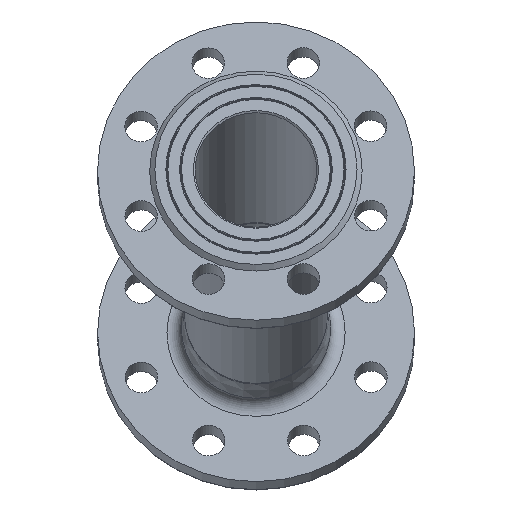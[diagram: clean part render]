
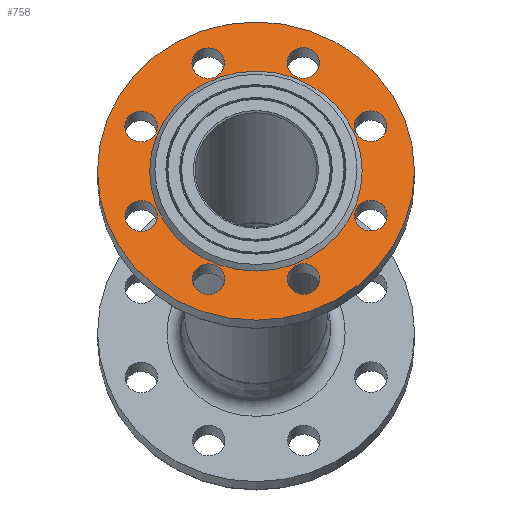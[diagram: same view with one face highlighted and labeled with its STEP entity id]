
A CAD part, top view. The second image highlights one B-rep face of the part: STEP entity #758.
In plain terms, the highlighted planar face has unit normal (0, 0.337, 0.941) as drawn and (0, 0, 1) by its records, which use the part's own axes.
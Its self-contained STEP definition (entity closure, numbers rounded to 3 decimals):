
#758 = ADVANCED_FACE( '', ( #1705, #1706, #1707, #1708, #1709, #1710, #1711, #1712, #1713, #1714 ), #1715, .T. );
#1705 = FACE_BOUND( '', #5603, .T. );
#1706 = FACE_BOUND( '', #5604, .T. );
#1707 = FACE_BOUND( '', #5605, .T. );
#1708 = FACE_BOUND( '', #5606, .T. );
#1709 = FACE_BOUND( '', #5607, .T. );
#1710 = FACE_BOUND( '', #5608, .T. );
#1711 = FACE_BOUND( '', #5609, .T. );
#1712 = FACE_BOUND( '', #5610, .T. );
#1713 = FACE_BOUND( '', #5611, .T. );
#1714 = FACE_OUTER_BOUND( '', #5612, .T. );
#1715 = PLANE( '', #5613 );
#5603 = EDGE_LOOP( '', ( #9774 ) );
#5604 = EDGE_LOOP( '', ( #9775 ) );
#5605 = EDGE_LOOP( '', ( #9776 ) );
#5606 = EDGE_LOOP( '', ( #9777 ) );
#5607 = EDGE_LOOP( '', ( #9778 ) );
#5608 = EDGE_LOOP( '', ( #9779 ) );
#5609 = EDGE_LOOP( '', ( #9780 ) );
#5610 = EDGE_LOOP( '', ( #9781 ) );
#5611 = EDGE_LOOP( '', ( #9782 ) );
#5612 = EDGE_LOOP( '', ( #9783 ) );
#5613 = AXIS2_PLACEMENT_3D( '', #9784, #9785, #9786 );
#9774 = ORIENTED_EDGE( '', *, *, #11908, .F. );
#9775 = ORIENTED_EDGE( '', *, *, #11909, .F. );
#9776 = ORIENTED_EDGE( '', *, *, #11910, .F. );
#9777 = ORIENTED_EDGE( '', *, *, #11493, .F. );
#9778 = ORIENTED_EDGE( '', *, *, #11911, .T. );
#9779 = ORIENTED_EDGE( '', *, *, #11815, .T. );
#9780 = ORIENTED_EDGE( '', *, *, #11423, .T. );
#9781 = ORIENTED_EDGE( '', *, *, #11786, .T. );
#9782 = ORIENTED_EDGE( '', *, *, #11912, .T. );
#9783 = ORIENTED_EDGE( '', *, *, #11310, .F. );
#9784 = CARTESIAN_POINT( '', ( 0., -92.5, 297. ) );
#9785 = DIRECTION( '', ( 0., 0., 1. ) );
#9786 = DIRECTION( '', ( 1., 0., 0. ) );
#11310 = EDGE_CURVE( '', #12415, #12415, #12416, .T. );
#11423 = EDGE_CURVE( '', #12609, #12609, #12610, .T. );
#11493 = EDGE_CURVE( '', #12726, #12726, #12727, .T. );
#11786 = EDGE_CURVE( '', #13177, #13177, #13178, .T. );
#11815 = EDGE_CURVE( '', #13222, #13222, #13223, .T. );
#11908 = EDGE_CURVE( '', #13353, #13353, #13354, .T. );
#11909 = EDGE_CURVE( '', #13355, #13355, #13356, .T. );
#11910 = EDGE_CURVE( '', #13357, #13357, #13358, .T. );
#11911 = EDGE_CURVE( '', #13359, #13359, #13360, .T. );
#11912 = EDGE_CURVE( '', #13361, #13361, #13362, .T. );
#12415 = VERTEX_POINT( '', #14053 );
#12416 = CIRCLE( '', #14054, 92.5 );
#12609 = VERTEX_POINT( '', #14510 );
#12610 = CIRCLE( '', #14511, 9.5 );
#12726 = VERTEX_POINT( '', #14761 );
#12727 = CIRCLE( '', #14762, 9.5 );
#13177 = VERTEX_POINT( '', #15900 );
#13178 = CIRCLE( '', #15901, 9.5 );
#13222 = VERTEX_POINT( '', #15970 );
#13223 = CIRCLE( '', #15971, 9.5 );
#13353 = VERTEX_POINT( '', #16375 );
#13354 = CIRCLE( '', #16376, 9.5 );
#13355 = VERTEX_POINT( '', #16377 );
#13356 = CIRCLE( '', #16378, 9.5 );
#13357 = VERTEX_POINT( '', #16379 );
#13358 = CIRCLE( '', #16380, 9.5 );
#13359 = VERTEX_POINT( '', #16381 );
#13360 = CIRCLE( '', #16382, 9.5 );
#13361 = VERTEX_POINT( '', #16383 );
#13362 = CIRCLE( '', #16384, 62. );
#14053 = CARTESIAN_POINT( '', ( -92.5, 0., 297. ) );
#14054 = AXIS2_PLACEMENT_3D( '', #17417, #17418, #17419 );
#14510 = CARTESIAN_POINT( '', ( 66.981, 18.245, 297. ) );
#14511 = AXIS2_PLACEMENT_3D( '', #17570, #17571, #17572 );
#14761 = CARTESIAN_POINT( '', ( 76.481, -27.745, 297. ) );
#14762 = AXIS2_PLACEMENT_3D( '', #17674, #17675, #17676 );
#15900 = CARTESIAN_POINT( '', ( -27.745, 57.481, 297. ) );
#15901 = AXIS2_PLACEMENT_3D( '', #18078, #18079, #18080 );
#15970 = CARTESIAN_POINT( '', ( 27.745, -76.481, 297. ) );
#15971 = AXIS2_PLACEMENT_3D( '', #18114, #18115, #18116 );
#16375 = CARTESIAN_POINT( '', ( -57.481, 27.745, 297. ) );
#16376 = AXIS2_PLACEMENT_3D( '', #18229, #18230, #18231 );
#16377 = CARTESIAN_POINT( '', ( 37.245, 66.981, 297. ) );
#16378 = AXIS2_PLACEMENT_3D( '', #18232, #18233, #18234 );
#16379 = CARTESIAN_POINT( '', ( -18.245, -66.981, 297. ) );
#16380 = AXIS2_PLACEMENT_3D( '', #18235, #18236, #18237 );
#16381 = CARTESIAN_POINT( '', ( -66.981, -37.245, 297. ) );
#16382 = AXIS2_PLACEMENT_3D( '', #18238, #18239, #18240 );
#16383 = CARTESIAN_POINT( '', ( -62., 0., 297. ) );
#16384 = AXIS2_PLACEMENT_3D( '', #18241, #18242, #18243 );
#17417 = CARTESIAN_POINT( '', ( 0., 0., 297. ) );
#17418 = DIRECTION( '', ( 0., 0., -1. ) );
#17419 = DIRECTION( '', ( -1., 0., 0. ) );
#17570 = CARTESIAN_POINT( '', ( 66.981, 27.745, 297. ) );
#17571 = DIRECTION( '', ( 0., 0., -1. ) );
#17572 = DIRECTION( '', ( 0., -1., 0. ) );
#17674 = CARTESIAN_POINT( '', ( 66.981, -27.745, 297. ) );
#17675 = DIRECTION( '', ( 0., 0., 1. ) );
#17676 = DIRECTION( '', ( 1., 0., 0. ) );
#18078 = CARTESIAN_POINT( '', ( -27.745, 66.981, 297. ) );
#18079 = DIRECTION( '', ( 0., 0., -1. ) );
#18080 = DIRECTION( '', ( 0., -1., 0. ) );
#18114 = CARTESIAN_POINT( '', ( 27.745, -66.981, 297. ) );
#18115 = DIRECTION( '', ( 0., 0., -1. ) );
#18116 = DIRECTION( '', ( 0., -1., 0. ) );
#18229 = CARTESIAN_POINT( '', ( -66.981, 27.745, 297. ) );
#18230 = DIRECTION( '', ( 0., 0., 1. ) );
#18231 = DIRECTION( '', ( 1., 0., 0. ) );
#18232 = CARTESIAN_POINT( '', ( 27.745, 66.981, 297. ) );
#18233 = DIRECTION( '', ( 0., 0., 1. ) );
#18234 = DIRECTION( '', ( 1., 0., 0. ) );
#18235 = CARTESIAN_POINT( '', ( -27.745, -66.981, 297. ) );
#18236 = DIRECTION( '', ( 0., 0., 1. ) );
#18237 = DIRECTION( '', ( 1., 0., 0. ) );
#18238 = CARTESIAN_POINT( '', ( -66.981, -27.745, 297. ) );
#18239 = DIRECTION( '', ( 0., 0., -1. ) );
#18240 = DIRECTION( '', ( 0., -1., 0. ) );
#18241 = CARTESIAN_POINT( '', ( 0., 0., 297. ) );
#18242 = DIRECTION( '', ( 0., 0., -1. ) );
#18243 = DIRECTION( '', ( -1., 0., 0. ) );
